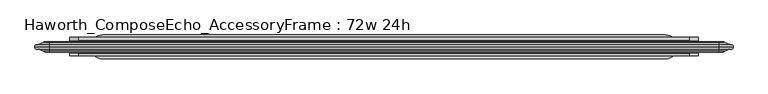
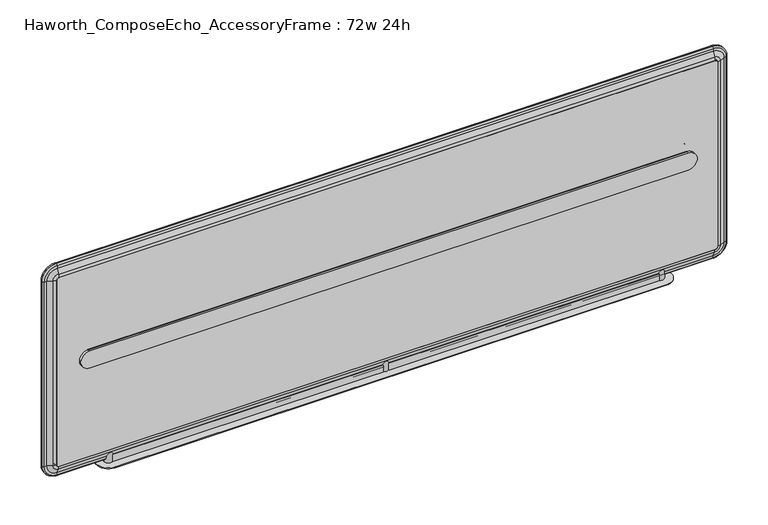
"""IFC4 building model written with IfcOpenShell, lengths in millimetres: furniture geometry, Haworth_ComposeEcho_AccessoryFrame : 72w 24h."""

from ifc_helpers import new_model, si_unit, point, frame, frame_2d, origin, place, context, project, spatial, polyline, circle_curve, ellipse_curve, trimmed, segment, composite_curve, outline, extrude, source, transform, mapped, element, save
from ifc_brep_helpers import plane_surface, cylinder_surface, revolved_surface, advanced_brep


def haworth_composeecho_accessoryframe_72w_24h_c86ca548(model_context):
    return source(origin(), model_context, "Body", "SolidModel", [
        extrude(outline(composite_curve([segment(trimmed(circle_curve(frame_2d((1636.1130983, -873.8759879)), 6.3337219), [point((1642.4468202, -873.8759879))], [point((1636.1130983, -880.2097098))], False, "CARTESIAN"), True, "CONTINUOUS"), segment(polyline([(1636.1130983, -880.2097098), (1115.0680007, -880.2097098)]), True, "CONTINUOUS"), segment(trimmed(circle_curve(frame_2d((1115.0680007, -873.8597098)), 6.35), [point((1115.0680007, -880.2097098))], [point((1108.7180007, -873.8597098))], False, "CARTESIAN"), True, "CONTINUOUS"), segment(polyline([(1108.7180007, -873.8597098), (1108.7180007, 878.7402902)]), True, "CONTINUOUS"), segment(trimmed(circle_curve(frame_2d((1115.0680007, 878.7402902)), 6.35), [point((1108.7180007, 878.7402902))], [point((1115.0680007, 885.0902902))], False, "CARTESIAN"), True, "CONTINUOUS"), segment(polyline([(1115.0680007, 885.0902902), (1636.1130983, 885.0902902)]), True, "CONTINUOUS"), segment(trimmed(circle_curve(frame_2d((1636.1130983, 878.7565682)), 6.3337219), [point((1636.1130983, 885.0902902))], [point((1642.4468202, 878.7565682))], False, "CARTESIAN"), True, "CONTINUOUS"), segment(polyline([(1642.4468202, 878.7565682), (1642.4468202, -873.8759879)]), True, "CONTINUOUS")], self_intersect=False)), frame((0.0, -14.2419601, 0.0), z_axis=(0.0, 1.0, 0.0), x_axis=(0.0, 0.0, 1.0)), (0.0, 0.0, 1.0), 28.3652874),
        advanced_brep(
        [(-909.0937217, 5.6620988, 1115.0680007), (-911.6146505, 0.0, 1115.0680007), (-911.6146505, 0.0, 1636.1130983), (-909.0937217, 5.6620988, 1636.1130983), (-880.2097098, 0.0, 1115.0680007), (-880.2097098, 14.1233272, 1115.0680007), (-880.2097098, 14.1233272, 1636.1130983), (-880.2097098, 0.0, 1636.1130983), (-888.4907567, 11.9243222, 1115.0680007), (-888.4907567, 11.9243222, 1636.1130983), (-901.6649167, 6.4813873, 1115.0680007), (-901.6649167, 6.4813873, 1636.1130983), (-873.8759879, 5.6620988, 1671.3308321), (-873.8759879, 0.0, 1673.8517609), (-873.8759879, 0.0, 1642.4468202), (-873.8759879, 14.1233272, 1642.4468202), (-873.8759879, 11.9243222, 1650.7278671), (-873.8759879, 6.4813873, 1663.9020271), (878.7563745, 0.0, 1673.8517609), (878.7563745, 5.6620988, 1671.3308321), (878.7563745, 14.1233272, 1642.4468202), (878.7563745, 0.0, 1642.4468202), (878.7563745, 11.9243222, 1650.7278671), (878.7563745, 6.4813873, 1663.9020271), (913.9741083, 5.6620988, 1636.1130983), (916.495037, 0.0, 1636.1130983), (885.0900964, 0.0, 1636.1130983), (885.0900964, 14.1233272, 1636.1130983), (893.3711433, 11.9243222, 1636.1130983), (906.5453032, 6.4813873, 1636.1130983), (916.495037, 0.0, 1115.0680007), (913.9741083, 5.6620988, 1115.0680007), (885.0900964, 14.1233272, 1115.0680007), (885.0900964, 0.0, 1115.0680007), (893.3711433, 11.9243222, 1115.0680007), (906.5453032, 6.4813873, 1115.0680007), (878.7400964, 5.6620988, 1079.8339888), (878.7400964, 0.0, 1077.31306), (878.7400964, 0.0, 1108.7180007), (878.7400964, 14.1233272, 1108.7180007), (878.7400964, 11.9243222, 1100.4369538), (878.7400964, 6.4813873, 1087.2627938), (-873.8597098, 0.0, 1077.31306), (-873.8597098, 5.6620988, 1079.8339888), (-873.8597098, 14.1233272, 1108.7180007), (-873.8597098, 0.0, 1108.7180007), (-873.8597098, 11.9243222, 1100.4369538), (-873.8597098, 6.4813873, 1087.2627938)],
        [
            (0, 1, circle_curve(frame((-907.6630478, 1.6328774, 1115.0680007), z_axis=(0.0, 0.0, 1.0), x_axis=(1.0, 0.0, 0.0)), 4.2756815)),
            (1, 2),
            (2, 3, circle_curve(frame((-907.6630478, 1.6328774, 1636.1130983), z_axis=(0.0, 0.0, -1.0), x_axis=(1.0, 0.0, 0.0)), 4.2756815)),
            (3, 0),
            (4, 5),
            (5, 6),
            (6, 7),
            (7, 4),
            (5, 8, circle_curve(frame((-877.800131, -11.6426513, 1115.0680007), z_axis=(0.0, 0.0, 1.0), x_axis=(1.0, 0.0, 0.0)), 25.8784026)),
            (8, 9),
            (9, 6, circle_curve(frame((-877.800131, -11.6426513, 1636.1130983), z_axis=(0.0, 0.0, -1.0), x_axis=(1.0, 0.0, 0.0)), 25.8784026)),
            (8, 10, circle_curve(frame((-974.9174674, 202.4478756, 1115.0680007), z_axis=(0.0, 0.0, -1.0), x_axis=(1.0, 0.0, 0.0)), 209.209944)),
            (10, 11),
            (11, 9, circle_curve(frame((-974.9174674, 202.4478756, 1636.1130983), z_axis=(0.0, 0.0, 1.0), x_axis=(1.0, 0.0, 0.0)), 209.209944)),
            (10, 0),
            (3, 11),
            (12, 3, circle_curve(frame((-873.8759879, 5.6620988, 1636.1130983), z_axis=(0.0, -1.0, 0.0), x_axis=(-1.0, 0.0, 0.0)), 35.2177338)),
            (2, 13, circle_curve(frame((-873.8759879, 0.0, 1636.1130983), z_axis=(0.0, 1.0, 0.0), x_axis=(-1.0, 0.0, 0.0)), 37.7386626)),
            (13, 12, circle_curve(frame((-873.8759879, 1.6328774, 1669.9001582), z_axis=(-1.0, 0.0, 0.0), x_axis=(0.0, 0.0, -1.0)), 4.2756815)),
            (14, 7, circle_curve(frame((-873.8759879, 0.0, 1636.1130983), z_axis=(0.0, -1.0, 0.0), x_axis=(-1.0, 0.0, 0.0)), 6.3337219)),
            (6, 15, circle_curve(frame((-873.8759879, 14.1233272, 1636.1130983), z_axis=(0.0, 1.0, 0.0), x_axis=(-1.0, 0.0, 0.0)), 6.3337219)),
            (15, 14),
            (9, 16, circle_curve(frame((-873.8759879, 11.9243222, 1636.1130983), z_axis=(0.0, 1.0, 0.0), x_axis=(-1.0, 0.0, 0.0)), 14.6147688)),
            (16, 15, circle_curve(frame((-873.8759879, -11.6426513, 1640.0372414), z_axis=(-1.0, 0.0, 0.0), x_axis=(0.0, 0.0, -1.0)), 25.8784026)),
            (11, 17, circle_curve(frame((-873.8759879, 6.4813873, 1636.1130983), z_axis=(0.0, 1.0, 0.0), x_axis=(-1.0, 0.0, 0.0)), 27.7889288)),
            (17, 16, circle_curve(frame((-873.8759879, 202.4478756, 1737.1545778), z_axis=(1.0, 0.0, 0.0), x_axis=(0.0, 0.0, -1.0)), 209.209944)),
            (12, 17),
            (13, 18),
            (18, 19, circle_curve(frame((878.7563745, 1.6328774, 1669.9001582), z_axis=(-1.0, 0.0, 0.0), x_axis=(0.0, 0.0, -1.0)), 4.2756815)),
            (19, 12),
            (15, 20),
            (20, 21),
            (21, 14),
            (16, 22),
            (22, 20, circle_curve(frame((878.7563745, -11.6426513, 1640.0372414), z_axis=(-1.0, 0.0, 0.0), x_axis=(0.0, 0.0, -1.0)), 25.8784026)),
            (17, 23),
            (23, 22, circle_curve(frame((878.7563745, 202.4478756, 1737.1545778), z_axis=(1.0, 0.0, 0.0), x_axis=(0.0, 0.0, -1.0)), 209.209944)),
            (19, 23),
            (24, 19, circle_curve(frame((878.7563745, 5.6620988, 1636.1130983), z_axis=(0.0, -1.0, 0.0), x_axis=(0.0, 0.0, 1.0)), 35.2177338)),
            (18, 25, circle_curve(frame((878.7563745, 0.0, 1636.1130983), z_axis=(0.0, 1.0, 0.0), x_axis=(0.0, 0.0, 1.0)), 37.7386626)),
            (25, 24, circle_curve(frame((912.5434343, 1.6328774, 1636.1130983), z_axis=(0.0, 0.0, 1.0), x_axis=(-1.0, 0.0, 0.0)), 4.2756815)),
            (26, 21, circle_curve(frame((878.7563745, 0.0, 1636.1130983), z_axis=(0.0, -1.0, 0.0), x_axis=(0.0, 0.0, 1.0)), 6.3337219)),
            (20, 27, circle_curve(frame((878.7563745, 14.1233272, 1636.1130983), z_axis=(0.0, 1.0, 0.0), x_axis=(0.0, 0.0, 1.0)), 6.3337219)),
            (27, 26),
            (22, 28, circle_curve(frame((878.7563745, 11.9243222, 1636.1130983), z_axis=(0.0, 1.0, 0.0), x_axis=(0.0, 0.0, 1.0)), 14.6147688)),
            (28, 27, circle_curve(frame((882.6805175, -11.6426513, 1636.1130983), z_axis=(0.0, 0.0, 1.0), x_axis=(-1.0, 0.0, 0.0)), 25.8784026)),
            (23, 29, circle_curve(frame((878.7563745, 6.4813873, 1636.1130983), z_axis=(0.0, 1.0, 0.0), x_axis=(0.0, 0.0, 1.0)), 27.7889288)),
            (29, 28, circle_curve(frame((979.7978539, 202.4478756, 1636.1130983), z_axis=(0.0, 0.0, -1.0), x_axis=(-1.0, 0.0, 0.0)), 209.209944)),
            (24, 29),
            (25, 30),
            (30, 31, circle_curve(frame((912.5434343, 1.6328774, 1115.0680007), z_axis=(0.0, 0.0, 1.0), x_axis=(-1.0, 0.0, 0.0)), 4.2756815)),
            (31, 24),
            (27, 32),
            (32, 33),
            (33, 26),
            (28, 34),
            (34, 32, circle_curve(frame((882.6805175, -11.6426513, 1115.0680007), z_axis=(0.0, 0.0, 1.0), x_axis=(-1.0, 0.0, 0.0)), 25.8784026)),
            (29, 35),
            (35, 34, circle_curve(frame((979.7978539, 202.4478756, 1115.0680007), z_axis=(0.0, 0.0, -1.0), x_axis=(-1.0, 0.0, 0.0)), 209.209944)),
            (31, 35),
            (36, 31, circle_curve(frame((878.7400964, 5.6620988, 1115.0680007), z_axis=(0.0, -1.0, 0.0), x_axis=(1.0, 0.0, 0.0)), 35.2340119)),
            (30, 37, circle_curve(frame((878.7400964, 0.0, 1115.0680007), z_axis=(0.0, 1.0, 0.0), x_axis=(1.0, 0.0, 0.0)), 37.7549407)),
            (37, 36, circle_curve(frame((878.7400964, 1.6328774, 1081.2646627), z_axis=(1.0, 0.0, 0.0), x_axis=(0.0, 0.0, 1.0)), 4.2756815)),
            (38, 33, circle_curve(frame((878.7400964, 0.0, 1115.0680007), z_axis=(0.0, -1.0, 0.0), x_axis=(1.0, 0.0, 0.0)), 6.35)),
            (32, 39, circle_curve(frame((878.7400964, 14.1233272, 1115.0680007), z_axis=(0.0, 1.0, 0.0), x_axis=(1.0, 0.0, 0.0)), 6.35)),
            (39, 38),
            (34, 40, circle_curve(frame((878.7400964, 11.9243222, 1115.0680007), z_axis=(0.0, 1.0, 0.0), x_axis=(1.0, 0.0, 0.0)), 14.6310469)),
            (40, 39, circle_curve(frame((878.7400964, -11.6426513, 1111.1275795), z_axis=(1.0, 0.0, 0.0), x_axis=(0.0, 0.0, 1.0)), 25.8784026)),
            (35, 41, circle_curve(frame((878.7400964, 6.4813873, 1115.0680007), z_axis=(0.0, 1.0, 0.0), x_axis=(1.0, 0.0, 0.0)), 27.8052069)),
            (41, 40, circle_curve(frame((878.7400964, 202.4478756, 1014.0102431), z_axis=(-1.0, 0.0, 0.0), x_axis=(0.0, 0.0, 1.0)), 209.209944)),
            (36, 41),
            (37, 42),
            (42, 43, circle_curve(frame((-873.8597098, 1.6328774, 1081.2646627), z_axis=(1.0, 0.0, 0.0), x_axis=(0.0, 0.0, 1.0)), 4.2756815)),
            (43, 36),
            (39, 44),
            (44, 45),
            (45, 38),
            (40, 46),
            (46, 44, circle_curve(frame((-873.8597098, -11.6426513, 1111.1275795), z_axis=(1.0, 0.0, 0.0), x_axis=(0.0, 0.0, 1.0)), 25.8784026)),
            (41, 47),
            (47, 46, circle_curve(frame((-873.8597098, 202.4478756, 1014.0102431), z_axis=(-1.0, 0.0, 0.0), x_axis=(0.0, 0.0, 1.0)), 209.209944)),
            (43, 47),
            (0, 43, circle_curve(frame((-873.8597098, 5.6620988, 1115.0680007), z_axis=(0.0, -1.0, 0.0), x_axis=(0.0, 0.0, -1.0)), 35.2340119)),
            (42, 1, circle_curve(frame((-873.8597098, 0.0, 1115.0680007), z_axis=(0.0, 1.0, 0.0), x_axis=(0.0, 0.0, -1.0)), 37.7549407)),
            (45, 4, circle_curve(frame((-873.8597098, 0.0, 1115.0680007), z_axis=(0.0, 1.0, 0.0), x_axis=(0.0, 0.0, -1.0)), 6.35)),
            (44, 5, circle_curve(frame((-873.8597098, 14.1233272, 1115.0680007), z_axis=(0.0, 1.0, 0.0), x_axis=(0.0, 0.0, -1.0)), 6.35)),
            (46, 8, circle_curve(frame((-873.8597098, 11.9243222, 1115.0680007), z_axis=(0.0, 1.0, 0.0), x_axis=(0.0, 0.0, -1.0)), 14.6310469)),
            (47, 10, circle_curve(frame((-873.8597098, 6.4813873, 1115.0680007), z_axis=(0.0, 1.0, 0.0), x_axis=(0.0, 0.0, -1.0)), 27.8052069)),
        ],
        [
            cylinder_surface(frame((-907.6630478, 1.6328774, 1115.0680007), z_axis=(0.0, 0.0, -1.0), x_axis=(1.0, 0.0, 0.0)), 4.2756815),
            plane_surface(frame((-880.2097098, 14.1233272, 1115.0680007), z_axis=(1.0, 0.0, 0.0), x_axis=(0.0, 0.0, 1.0))),
            cylinder_surface(frame((-877.800131, -11.6426513, 1115.0680007), z_axis=(0.0, 0.0, -1.0), x_axis=(1.0, 0.0, 0.0)), 25.8784026),
            revolved_surface(polyline([(-765.7075233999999, 202.4478756, 1636.1130983), (-765.7075233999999, 202.4478756, 1115.0680007)]), (-974.9174674, 202.4478756, 1115.0680007), (0.0, 0.0, 1.0)),
            plane_surface(frame((-909.0937217, 5.6620988, 1115.0680007), z_axis=(-0.10962074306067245, 0.9939734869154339, 0.0), x_axis=(0.0, 0.0, 1.0))),
            revolved_surface(trimmed(ellipse_curve(frame((-907.6630478, 1.6328774, 1636.1130983), z_axis=(0.0, 0.0, -1.0), x_axis=(1.0, 0.0, 0.0)), 4.2756815, 4.2756815), [point((-911.6146505, 0.0, 1636.1130983))], [point((-909.0937217, 5.6620988, 1636.1130983))], True, "CARTESIAN"), (-873.8759879, 0.0, 1636.1130983), (0.0, 1.0, 0.0)),
            revolved_surface(polyline([(-880.2097098, 14.1233272, 1636.1130983), (-880.2097098, 0.0, 1636.1130983)]), (-873.8759879, 0.0, 1636.1130983), (0.0, 1.0, 0.0)),
            revolved_surface(trimmed(ellipse_curve(frame((-877.800131, -11.6426513, 1636.1130983), z_axis=(0.0, 0.0, -1.0), x_axis=(1.0, 0.0, 0.0)), 25.8784026, 25.8784026), [point((-888.4907567, 11.9243222, 1636.1130983))], [point((-880.2097098, 14.1233272, 1636.1130983))], True, "CARTESIAN"), (-873.8759879, 0.0, 1636.1130983), (0.0, 1.0, 0.0)),
            revolved_surface(trimmed(ellipse_curve(frame((-974.9174674, 202.4478756, 1636.1130983), z_axis=(0.0, 0.0, 1.0), x_axis=(1.0, 0.0, 0.0)), 209.209944, 209.209944), [point((-901.6649167, 6.4813873, 1636.1130983))], [point((-888.4907567, 11.9243222, 1636.1130983))], True, "CARTESIAN"), (-873.8759879, 0.0, 1636.1130983), (0.0, 1.0, 0.0)),
            revolved_surface(polyline([(-909.0937217, 5.6620988, 1636.1130983), (-901.6649167, 6.4813873, 1636.1130983)]), (-873.8759879, 0.0, 1636.1130983), (0.0, 1.0, 0.0)),
            cylinder_surface(frame((-873.8759879, 1.6328774, 1669.9001582), z_axis=(-1.0, 0.0, 0.0), x_axis=(0.0, 0.0, -1.0)), 4.2756815),
            plane_surface(frame((-873.8759879, 14.1233272, 1642.4468202), z_axis=(0.0, 0.0, -1.0), x_axis=(1.0, 0.0, 0.0))),
            cylinder_surface(frame((-873.8759879, -11.6426513, 1640.0372414), z_axis=(-1.0, 0.0, 0.0), x_axis=(0.0, 0.0, -1.0)), 25.8784026),
            revolved_surface(polyline([(878.7563745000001, 202.4478756, 1527.9446338), (-873.8759879, 202.4478756, 1527.9446338)]), (-873.8759879, 202.4478756, 1737.1545778), (1.0, 0.0, 0.0)),
            plane_surface(frame((-873.8759879, 5.6620988, 1671.3308321), z_axis=(0.0, 0.9939734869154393, 0.10962074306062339), x_axis=(1.0, 0.0, 0.0))),
            revolved_surface(trimmed(ellipse_curve(frame((878.7563745, 1.6328774, 1669.9001582), z_axis=(-1.0, 0.0, 0.0), x_axis=(0.0, 0.0, -1.0)), 4.2756815, 4.2756815), [point((878.7563745, 0.0, 1673.8517609))], [point((878.7563745, 5.6620988, 1671.3308321))], True, "CARTESIAN"), (878.7563745, 0.0, 1636.1130983), (0.0, 1.0, 0.0)),
            revolved_surface(polyline([(878.7563745, 14.1233272, 1642.4468202), (878.7563745, 0.0, 1642.4468202)]), (878.7563745, 0.0, 1636.1130983), (0.0, 1.0, 0.0)),
            revolved_surface(trimmed(ellipse_curve(frame((878.7563745, -11.6426513, 1640.0372414), z_axis=(-1.0, 0.0, 0.0), x_axis=(0.0, 0.0, -1.0)), 25.8784026, 25.8784026), [point((878.7563745, 11.9243222, 1650.7278671))], [point((878.7563745, 14.1233272, 1642.4468202))], True, "CARTESIAN"), (878.7563745, 0.0, 1636.1130983), (0.0, 1.0, 0.0)),
            revolved_surface(trimmed(ellipse_curve(frame((878.7563745, 202.4478756, 1737.1545778), z_axis=(1.0, 0.0, 0.0), x_axis=(0.0, 0.0, -1.0)), 209.209944, 209.209944), [point((878.7563745, 6.4813873, 1663.9020271))], [point((878.7563745, 11.9243222, 1650.7278671))], True, "CARTESIAN"), (878.7563745, 0.0, 1636.1130983), (0.0, 1.0, 0.0)),
            revolved_surface(polyline([(878.7563745, 5.6620988, 1671.3308321), (878.7563745, 6.4813873, 1663.9020271)]), (878.7563745, 0.0, 1636.1130983), (0.0, 1.0, 0.0)),
            cylinder_surface(frame((912.5434343, 1.6328774, 1636.1130983), z_axis=(0.0, 0.0, 1.0), x_axis=(-1.0, 0.0, 0.0)), 4.2756815),
            plane_surface(frame((885.0900964, 14.1233272, 1636.1130983), z_axis=(-1.0, 0.0, 0.0), x_axis=(0.0, 0.0, -1.0))),
            cylinder_surface(frame((882.6805175, -11.6426513, 1636.1130983), z_axis=(0.0, 0.0, 1.0), x_axis=(-1.0, 0.0, 0.0)), 25.8784026),
            revolved_surface(polyline([(770.5879098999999, 202.4478756, 1115.0680007), (770.5879098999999, 202.4478756, 1636.1130983)]), (979.7978539, 202.4478756, 1636.1130983), (0.0, 0.0, -1.0)),
            plane_surface(frame((913.9741083, 5.6620988, 1636.1130983), z_axis=(0.10962074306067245, 0.9939734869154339, 0.0), x_axis=(0.0, 0.0, -1.0))),
            revolved_surface(trimmed(ellipse_curve(frame((912.5434343, 1.6328774, 1115.0680007), z_axis=(0.0, 0.0, 1.0), x_axis=(-1.0, 0.0, 0.0)), 4.2756815, 4.2756815), [point((916.495037, 0.0, 1115.0680007))], [point((913.9741083, 5.6620988, 1115.0680007))], True, "CARTESIAN"), (878.7400964, 0.0, 1115.0680007), (0.0, 1.0, 0.0)),
            revolved_surface(polyline([(885.0900964, 14.1233272, 1115.0680007), (885.0900964, 0.0, 1115.0680007)]), (878.7400964, 0.0, 1115.0680007), (0.0, 1.0, 0.0)),
            revolved_surface(trimmed(ellipse_curve(frame((882.6805175, -11.6426513, 1115.0680007), z_axis=(0.0, 0.0, 1.0), x_axis=(-1.0, 0.0, 0.0)), 25.8784026, 25.8784026), [point((893.3711433, 11.9243222, 1115.0680007))], [point((885.0900964, 14.1233272, 1115.0680007))], True, "CARTESIAN"), (878.7400964, 0.0, 1115.0680007), (0.0, 1.0, 0.0)),
            revolved_surface(trimmed(ellipse_curve(frame((979.7978539, 202.4478756, 1115.0680007), z_axis=(0.0, 0.0, -1.0), x_axis=(-1.0, 0.0, 0.0)), 209.209944, 209.209944), [point((906.5453032, 6.4813873, 1115.0680007))], [point((893.3711433, 11.9243222, 1115.0680007))], True, "CARTESIAN"), (878.7400964, 0.0, 1115.0680007), (0.0, 1.0, 0.0)),
            revolved_surface(polyline([(913.9741083, 5.6620988, 1115.0680007), (906.5453032, 6.4813873, 1115.0680007)]), (878.7400964, 0.0, 1115.0680007), (0.0, 1.0, 0.0)),
            cylinder_surface(frame((878.7400964, 1.6328774, 1081.2646627), z_axis=(1.0, 0.0, 0.0), x_axis=(0.0, 0.0, 1.0)), 4.2756815),
            plane_surface(frame((878.7400964, 14.1233272, 1108.7180007), z_axis=(0.0, 0.0, 1.0), x_axis=(-1.0, 0.0, 0.0))),
            cylinder_surface(frame((878.7400964, -11.6426513, 1111.1275795), z_axis=(1.0, 0.0, 0.0), x_axis=(0.0, 0.0, 1.0)), 25.8784026),
            revolved_surface(polyline([(-873.8597097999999, 202.4478756, 1223.2201871), (878.7400964, 202.4478756, 1223.2201871)]), (878.7400964, 202.4478756, 1014.0102431), (-1.0, 0.0, 0.0)),
            plane_surface(frame((878.7400964, 5.6620988, 1079.8339888), z_axis=(0.0, 0.9939734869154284, -0.1096207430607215), x_axis=(-1.0, 0.0, 0.0))),
            revolved_surface(trimmed(ellipse_curve(frame((-873.8597098, 1.6328774, 1081.2646627), z_axis=(1.0, 0.0, 0.0), x_axis=(0.0, 0.0, 1.0)), 4.2756815, 4.2756815), [point((-873.8597098, 0.0, 1077.31306))], [point((-873.8597098, 5.6620988, 1079.8339888))], True, "CARTESIAN"), (-873.8597098, 0.0, 1115.0680007), (0.0, 1.0, 0.0)),
            plane_surface(frame((-873.8597098, 0.0, 1115.0680007), z_axis=(0.0, -1.0, 0.0), x_axis=(0.0, 0.0, -1.0))),
            revolved_surface(polyline([(-873.8597098, 14.1233272, 1108.7180007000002), (-873.8597098, 0.0, 1108.7180007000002)]), (-873.8597098, 0.0, 1115.0680007), (0.0, 1.0, 0.0)),
            revolved_surface(trimmed(ellipse_curve(frame((-873.8597098, -11.6426513, 1111.1275795), z_axis=(1.0, 0.0, 0.0), x_axis=(0.0, 0.0, 1.0)), 25.8784026, 25.8784026), [point((-873.8597098, 11.9243222, 1100.4369538))], [point((-873.8597098, 14.1233272, 1108.7180007))], True, "CARTESIAN"), (-873.8597098, 0.0, 1115.0680007), (0.0, 1.0, 0.0)),
            revolved_surface(trimmed(ellipse_curve(frame((-873.8597098, 202.4478756, 1014.0102431), z_axis=(-1.0, 0.0, 0.0), x_axis=(0.0, 0.0, 1.0)), 209.209944, 209.209944), [point((-873.8597098, 6.4813873, 1087.2627938))], [point((-873.8597098, 11.9243222, 1100.4369538))], True, "CARTESIAN"), (-873.8597098, 0.0, 1115.0680007), (0.0, 1.0, 0.0)),
            revolved_surface(polyline([(-873.8597098, 5.6620988, 1079.8339888), (-873.8597098, 6.4813873, 1087.2627938)]), (-873.8597098, 0.0, 1115.0680007), (0.0, 1.0, 0.0)),
        ],
        [
            (0, [[1, 2, 3, 4]]),
            (1, [[5, 6, 7, 8]]),
            (2, [[9, 10, 11, -6]]),
            (3, [[12, 13, 14, -10]]),
            (4, [[15, -4, 16, -13]]),
            (5, [[17, -3, 18, 19]]),
            (6, [[20, -7, 21, 22]]),
            (7, [[-21, -11, 23, 24]]),
            (8, [[-23, -14, 25, 26]]),
            (9, [[-25, -16, -17, 27]]),
            (10, [[-19, 28, 29, 30]]),
            (11, [[-22, 31, 32, 33]]),
            (12, [[-24, 34, 35, -31]]),
            (13, [[-26, 36, 37, -34]]),
            (14, [[-27, -30, 38, -36]]),
            (15, [[39, -29, 40, 41]]),
            (16, [[42, -32, 43, 44]]),
            (17, [[-43, -35, 45, 46]]),
            (18, [[-45, -37, 47, 48]]),
            (19, [[-47, -38, -39, 49]]),
            (20, [[-41, 50, 51, 52]]),
            (21, [[-44, 53, 54, 55]]),
            (22, [[-46, 56, 57, -53]]),
            (23, [[-48, 58, 59, -56]]),
            (24, [[-49, -52, 60, -58]]),
            (25, [[61, -51, 62, 63]]),
            (26, [[64, -54, 65, 66]]),
            (27, [[-65, -57, 67, 68]]),
            (28, [[-67, -59, 69, 70]]),
            (29, [[-69, -60, -61, 71]]),
            (30, [[-63, 72, 73, 74]]),
            (31, [[-66, 75, 76, 77]]),
            (32, [[-68, 78, 79, -75]]),
            (33, [[-70, 80, 81, -78]]),
            (34, [[-71, -74, 82, -80]]),
            (35, [[83, -73, 84, -1]]),
            (36, [[-84, -72, -62, -50, -40, -28, -18, -2], [-64, -77, 85, -8, -20, -33, -42, -55]]),
            (37, [[-85, -76, 86, -5]]),
            (38, [[-86, -79, 87, -9]]),
            (39, [[-87, -81, 88, -12]]),
            (40, [[-88, -82, -83, -15]]),
        ],
    ),
        advanced_brep(
        [(-911.6146505, 0.0, 1115.0680007), (-909.0937217, -5.6620988, 1115.0680007), (-909.0937217, -5.6620988, 1636.1130983), (-911.6146505, 0.0, 1636.1130983), (-880.2097098, -14.1233272, 1115.0680007), (-880.2097098, 0.0, 1115.0680007), (-880.2097098, 0.0, 1636.1130983), (-880.2097098, -14.1233272, 1636.1130983), (-888.4907567, -11.9243222, 1115.0680007), (-888.4907567, -11.9243222, 1636.1130983), (-901.6649167, -6.4813873, 1115.0680007), (-901.6649167, -6.4813873, 1636.1130983), (-873.8759879, 0.0, 1673.8517609), (-873.8759879, -5.6620988, 1671.3308321), (-873.8759879, -14.1233272, 1642.4468202), (-873.8759879, 0.0, 1642.4468202), (-873.8759879, -11.9243222, 1650.7278671), (-873.8759879, -6.4813873, 1663.9020271), (878.7563745, -5.6620988, 1671.3308321), (878.7563745, 0.0, 1673.8517609), (878.7563745, 0.0, 1642.4468202), (878.7563745, -14.1233272, 1642.4468202), (878.7563745, -11.9243222, 1650.7278671), (878.7563745, -6.4813873, 1663.9020271), (916.495037, 0.0, 1636.1130983), (913.9741083, -5.6620988, 1636.1130983), (885.0900964, -14.1233272, 1636.1130983), (885.0900964, 0.0, 1636.1130983), (893.3711433, -11.9243222, 1636.1130983), (906.5453032, -6.4813873, 1636.1130983), (913.9741083, -5.6620988, 1115.0680007), (916.495037, 0.0, 1115.0680007), (885.0900964, 0.0, 1115.0680007), (885.0900964, -14.1233272, 1115.0680007), (893.3711433, -11.9243222, 1115.0680007), (906.5453032, -6.4813873, 1115.0680007), (878.7400964, 0.0, 1077.31306), (878.7400964, -5.6620988, 1079.8339888), (878.7400964, -14.1233272, 1108.7180007), (878.7400964, 0.0, 1108.7180007), (878.7400964, -11.9243222, 1100.4369538), (878.7400964, -6.4813873, 1087.2627938), (-873.8597098, -5.6620988, 1079.8339888), (-873.8597098, 0.0, 1077.31306), (-873.8597098, 0.0, 1108.7180007), (-873.8597098, -14.1233272, 1108.7180007), (-873.8597098, -11.9243222, 1100.4369538), (-873.8597098, -6.4813873, 1087.2627938)],
        [
            (0, 1, circle_curve(frame((-907.6630478, -1.6328774, 1115.0680007), z_axis=(0.0, 0.0, 1.0), x_axis=(-1.0, 0.0, 0.0)), 4.2756815)),
            (1, 2),
            (2, 3, circle_curve(frame((-907.6630478, -1.6328774, 1636.1130983), z_axis=(0.0, 0.0, -1.0), x_axis=(-1.0, 0.0, 0.0)), 4.2756815)),
            (3, 0),
            (4, 5),
            (5, 6),
            (6, 7),
            (7, 4),
            (8, 4, circle_curve(frame((-877.800131, 11.6426513, 1115.0680007), z_axis=(0.0, 0.0, 1.0), x_axis=(-1.0, 0.0, 0.0)), 25.8784026)),
            (7, 9, circle_curve(frame((-877.800131, 11.6426513, 1636.1130983), z_axis=(0.0, 0.0, -1.0), x_axis=(-1.0, 0.0, 0.0)), 25.8784026)),
            (9, 8),
            (10, 8, circle_curve(frame((-974.9174674, -202.4478756, 1115.0680007), z_axis=(0.0, 0.0, -1.0), x_axis=(-1.0, 0.0, 0.0)), 209.209944)),
            (9, 11, circle_curve(frame((-974.9174674, -202.4478756, 1636.1130983), z_axis=(0.0, 0.0, 1.0), x_axis=(-1.0, 0.0, 0.0)), 209.209944)),
            (11, 10),
            (1, 10),
            (11, 2),
            (12, 3, circle_curve(frame((-873.8759879, 0.0, 1636.1130983), z_axis=(0.0, -1.0, 0.0), x_axis=(-1.0, 0.0, 0.0)), 37.7386626)),
            (2, 13, circle_curve(frame((-873.8759879, -5.6620988, 1636.1130983), z_axis=(0.0, 1.0, 0.0), x_axis=(-1.0, 0.0, 0.0)), 35.2177338)),
            (13, 12, circle_curve(frame((-873.8759879, -1.6328774, 1669.9001582), z_axis=(-1.0, 0.0, 0.0), x_axis=(0.0, 0.0, 1.0)), 4.2756815)),
            (14, 7, circle_curve(frame((-873.8759879, -14.1233272, 1636.1130983), z_axis=(0.0, -1.0, 0.0), x_axis=(-1.0, 0.0, 0.0)), 6.3337219)),
            (6, 15, circle_curve(frame((-873.8759879, 0.0, 1636.1130983), z_axis=(0.0, 1.0, 0.0), x_axis=(-1.0, 0.0, 0.0)), 6.3337219)),
            (15, 14),
            (16, 9, circle_curve(frame((-873.8759879, -11.9243222, 1636.1130983), z_axis=(0.0, -1.0, 0.0), x_axis=(-1.0, 0.0, 0.0)), 14.6147688)),
            (14, 16, circle_curve(frame((-873.8759879, 11.6426513, 1640.0372414), z_axis=(-1.0, 0.0, 0.0), x_axis=(0.0, 0.0, 1.0)), 25.8784026)),
            (17, 11, circle_curve(frame((-873.8759879, -6.4813873, 1636.1130983), z_axis=(0.0, -1.0, 0.0), x_axis=(-1.0, 0.0, 0.0)), 27.7889288)),
            (16, 17, circle_curve(frame((-873.8759879, -202.4478756, 1737.1545778), z_axis=(1.0, 0.0, 0.0), x_axis=(0.0, 0.0, 1.0)), 209.209944)),
            (17, 13),
            (13, 18),
            (18, 19, circle_curve(frame((878.7563745, -1.6328774, 1669.9001582), z_axis=(-1.0, 0.0, 0.0), x_axis=(0.0, 0.0, 1.0)), 4.2756815)),
            (19, 12),
            (15, 20),
            (20, 21),
            (21, 14),
            (21, 22, circle_curve(frame((878.7563745, 11.6426513, 1640.0372414), z_axis=(-1.0, 0.0, 0.0), x_axis=(0.0, 0.0, 1.0)), 25.8784026)),
            (22, 16),
            (22, 23, circle_curve(frame((878.7563745, -202.4478756, 1737.1545778), z_axis=(1.0, 0.0, 0.0), x_axis=(0.0, 0.0, 1.0)), 209.209944)),
            (23, 17),
            (23, 18),
            (24, 19, circle_curve(frame((878.7563745, 0.0, 1636.1130983), z_axis=(0.0, -1.0, 0.0), x_axis=(0.0, 0.0, 1.0)), 37.7386626)),
            (18, 25, circle_curve(frame((878.7563745, -5.6620988, 1636.1130983), z_axis=(0.0, 1.0, 0.0), x_axis=(0.0, 0.0, 1.0)), 35.2177338)),
            (25, 24, circle_curve(frame((912.5434343, -1.6328774, 1636.1130983), z_axis=(0.0, 0.0, 1.0), x_axis=(1.0, 0.0, 0.0)), 4.2756815)),
            (26, 21, circle_curve(frame((878.7563745, -14.1233272, 1636.1130983), z_axis=(0.0, -1.0, 0.0), x_axis=(0.0, 0.0, 1.0)), 6.3337219)),
            (20, 27, circle_curve(frame((878.7563745, 0.0, 1636.1130983), z_axis=(0.0, 1.0, 0.0), x_axis=(0.0, 0.0, 1.0)), 6.3337219)),
            (27, 26),
            (28, 22, circle_curve(frame((878.7563745, -11.9243222, 1636.1130983), z_axis=(0.0, -1.0, 0.0), x_axis=(0.0, 0.0, 1.0)), 14.6147688)),
            (26, 28, circle_curve(frame((882.6805175, 11.6426513, 1636.1130983), z_axis=(0.0, 0.0, 1.0), x_axis=(1.0, 0.0, 0.0)), 25.8784026)),
            (29, 23, circle_curve(frame((878.7563745, -6.4813873, 1636.1130983), z_axis=(0.0, -1.0, 0.0), x_axis=(0.0, 0.0, 1.0)), 27.7889288)),
            (28, 29, circle_curve(frame((979.7978539, -202.4478756, 1636.1130983), z_axis=(0.0, 0.0, -1.0), x_axis=(1.0, 0.0, 0.0)), 209.209944)),
            (29, 25),
            (25, 30),
            (30, 31, circle_curve(frame((912.5434343, -1.6328774, 1115.0680007), z_axis=(0.0, 0.0, 1.0), x_axis=(1.0, 0.0, 0.0)), 4.2756815)),
            (31, 24),
            (27, 32),
            (32, 33),
            (33, 26),
            (33, 34, circle_curve(frame((882.6805175, 11.6426513, 1115.0680007), z_axis=(0.0, 0.0, 1.0), x_axis=(1.0, 0.0, 0.0)), 25.8784026)),
            (34, 28),
            (34, 35, circle_curve(frame((979.7978539, -202.4478756, 1115.0680007), z_axis=(0.0, 0.0, -1.0), x_axis=(1.0, 0.0, 0.0)), 209.209944)),
            (35, 29),
            (35, 30),
            (36, 31, circle_curve(frame((878.7400964, 0.0, 1115.0680007), z_axis=(0.0, -1.0, 0.0), x_axis=(1.0, 0.0, 0.0)), 37.7549407)),
            (30, 37, circle_curve(frame((878.7400964, -5.6620988, 1115.0680007), z_axis=(0.0, 1.0, 0.0), x_axis=(1.0, 0.0, 0.0)), 35.2340119)),
            (37, 36, circle_curve(frame((878.7400964, -1.6328774, 1081.2646627), z_axis=(1.0, 0.0, 0.0), x_axis=(0.0, 0.0, -1.0)), 4.2756815)),
            (38, 33, circle_curve(frame((878.7400964, -14.1233272, 1115.0680007), z_axis=(0.0, -1.0, 0.0), x_axis=(1.0, 0.0, 0.0)), 6.35)),
            (32, 39, circle_curve(frame((878.7400964, 0.0, 1115.0680007), z_axis=(0.0, 1.0, 0.0), x_axis=(1.0, 0.0, 0.0)), 6.35)),
            (39, 38),
            (40, 34, circle_curve(frame((878.7400964, -11.9243222, 1115.0680007), z_axis=(0.0, -1.0, 0.0), x_axis=(1.0, 0.0, 0.0)), 14.6310469)),
            (38, 40, circle_curve(frame((878.7400964, 11.6426513, 1111.1275795), z_axis=(1.0, 0.0, 0.0), x_axis=(0.0, 0.0, -1.0)), 25.8784026)),
            (41, 35, circle_curve(frame((878.7400964, -6.4813873, 1115.0680007), z_axis=(0.0, -1.0, 0.0), x_axis=(1.0, 0.0, 0.0)), 27.8052069)),
            (40, 41, circle_curve(frame((878.7400964, -202.4478756, 1014.0102431), z_axis=(-1.0, 0.0, 0.0), x_axis=(0.0, 0.0, -1.0)), 209.209944)),
            (41, 37),
            (37, 42),
            (42, 43, circle_curve(frame((-873.8597098, -1.6328774, 1081.2646627), z_axis=(1.0, 0.0, 0.0), x_axis=(0.0, 0.0, -1.0)), 4.2756815)),
            (43, 36),
            (39, 44),
            (44, 45),
            (45, 38),
            (45, 46, circle_curve(frame((-873.8597098, 11.6426513, 1111.1275795), z_axis=(1.0, 0.0, 0.0), x_axis=(0.0, 0.0, -1.0)), 25.8784026)),
            (46, 40),
            (46, 47, circle_curve(frame((-873.8597098, -202.4478756, 1014.0102431), z_axis=(-1.0, 0.0, 0.0), x_axis=(0.0, 0.0, -1.0)), 209.209944)),
            (47, 41),
            (47, 42),
            (0, 43, circle_curve(frame((-873.8597098, 0.0, 1115.0680007), z_axis=(0.0, -1.0, 0.0), x_axis=(0.0, 0.0, -1.0)), 37.7549407)),
            (42, 1, circle_curve(frame((-873.8597098, -5.6620988, 1115.0680007), z_axis=(0.0, 1.0, 0.0), x_axis=(0.0, 0.0, -1.0)), 35.2340119)),
            (5, 44, circle_curve(frame((-873.8597098, 0.0, 1115.0680007), z_axis=(0.0, -1.0, 0.0), x_axis=(0.0, 0.0, -1.0)), 6.35)),
            (4, 45, circle_curve(frame((-873.8597098, -14.1233272, 1115.0680007), z_axis=(0.0, -1.0, 0.0), x_axis=(0.0, 0.0, -1.0)), 6.35)),
            (8, 46, circle_curve(frame((-873.8597098, -11.9243222, 1115.0680007), z_axis=(0.0, -1.0, 0.0), x_axis=(0.0, 0.0, -1.0)), 14.6310469)),
            (10, 47, circle_curve(frame((-873.8597098, -6.4813873, 1115.0680007), z_axis=(0.0, -1.0, 0.0), x_axis=(0.0, 0.0, -1.0)), 27.8052069)),
        ],
        [
            cylinder_surface(frame((-907.6630478, -1.6328774, 1115.0680007), z_axis=(0.0, 0.0, -1.0), x_axis=(-1.0, 0.0, 0.0)), 4.2756815),
            plane_surface(frame((-880.2097098, 0.0, 1115.0680007), z_axis=(1.0, 0.0, 0.0), x_axis=(0.0, 0.0, 1.0))),
            cylinder_surface(frame((-877.800131, 11.6426513, 1115.0680007), z_axis=(0.0, 0.0, -1.0), x_axis=(-1.0, 0.0, 0.0)), 25.8784026),
            revolved_surface(polyline([(-1184.1274114, -202.4478756, 1636.1130983), (-1184.1274114, -202.4478756, 1115.0680007)]), (-974.9174674, -202.4478756, 1115.0680007), (0.0, 0.0, 1.0)),
            plane_surface(frame((-901.6649167, -6.4813873, 1115.0680007), z_axis=(-0.10962074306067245, -0.9939734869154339, 0.0), x_axis=(0.0, 0.0, 1.0))),
            revolved_surface(trimmed(ellipse_curve(frame((-907.6630478, -1.6328774, 1636.1130983), z_axis=(0.0, 0.0, -1.0), x_axis=(-1.0, 0.0, 0.0)), 4.2756815, 4.2756815), [point((-909.0937217, -5.6620988, 1636.1130983))], [point((-911.6146505, 0.0, 1636.1130983))], True, "CARTESIAN"), (-873.8759879, 0.0, 1636.1130983), (0.0, 1.0, 0.0)),
            revolved_surface(polyline([(-880.2097098, 0.0, 1636.1130983), (-880.2097098, -14.1233272, 1636.1130983)]), (-873.8759879, 0.0, 1636.1130983), (0.0, 1.0, 0.0)),
            revolved_surface(trimmed(ellipse_curve(frame((-877.800131, 11.6426513, 1636.1130983), z_axis=(0.0, 0.0, -1.0), x_axis=(-1.0, 0.0, 0.0)), 25.8784026, 25.8784026), [point((-880.2097098, -14.1233272, 1636.1130983))], [point((-888.4907567, -11.9243222, 1636.1130983))], True, "CARTESIAN"), (-873.8759879, 0.0, 1636.1130983), (0.0, 1.0, 0.0)),
            revolved_surface(trimmed(ellipse_curve(frame((-974.9174674, -202.4478756, 1636.1130983), z_axis=(0.0, 0.0, 1.0), x_axis=(-1.0, 0.0, 0.0)), 209.209944, 209.209944), [point((-888.4907567, -11.9243222, 1636.1130983))], [point((-901.6649167, -6.4813873, 1636.1130983))], True, "CARTESIAN"), (-873.8759879, 0.0, 1636.1130983), (0.0, 1.0, 0.0)),
            revolved_surface(polyline([(-901.6649167, -6.4813873, 1636.1130983), (-909.0937217, -5.6620988, 1636.1130983)]), (-873.8759879, 0.0, 1636.1130983), (0.0, 1.0, 0.0)),
            cylinder_surface(frame((-873.8759879, -1.6328774, 1669.9001582), z_axis=(-1.0, 0.0, 0.0), x_axis=(0.0, 0.0, 1.0)), 4.2756815),
            plane_surface(frame((-873.8759879, 0.0, 1642.4468202), z_axis=(0.0, 0.0, -1.0), x_axis=(1.0, 0.0, 0.0))),
            cylinder_surface(frame((-873.8759879, 11.6426513, 1640.0372414), z_axis=(-1.0, 0.0, 0.0), x_axis=(0.0, 0.0, 1.0)), 25.8784026),
            revolved_surface(polyline([(878.7563745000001, -202.4478756, 1946.3645218), (-873.8759879, -202.4478756, 1946.3645218)]), (-873.8759879, -202.4478756, 1737.1545778), (1.0, 0.0, 0.0)),
            plane_surface(frame((-873.8759879, -6.4813873, 1663.9020271), z_axis=(0.0, -0.9939734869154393, 0.10962074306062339), x_axis=(1.0, 0.0, 0.0))),
            revolved_surface(trimmed(ellipse_curve(frame((878.7563745, -1.6328774, 1669.9001582), z_axis=(-1.0, 0.0, 0.0), x_axis=(0.0, 0.0, 1.0)), 4.2756815, 4.2756815), [point((878.7563745, -5.6620988, 1671.3308321))], [point((878.7563745, 0.0, 1673.8517609))], True, "CARTESIAN"), (878.7563745, 0.0, 1636.1130983), (0.0, 1.0, 0.0)),
            revolved_surface(polyline([(878.7563745, 0.0, 1642.4468202), (878.7563745, -14.1233272, 1642.4468202)]), (878.7563745, 0.0, 1636.1130983), (0.0, 1.0, 0.0)),
            revolved_surface(trimmed(ellipse_curve(frame((878.7563745, 11.6426513, 1640.0372414), z_axis=(-1.0, 0.0, 0.0), x_axis=(0.0, 0.0, 1.0)), 25.8784026, 25.8784026), [point((878.7563745, -14.1233272, 1642.4468202))], [point((878.7563745, -11.9243222, 1650.7278671))], True, "CARTESIAN"), (878.7563745, 0.0, 1636.1130983), (0.0, 1.0, 0.0)),
            revolved_surface(trimmed(ellipse_curve(frame((878.7563745, -202.4478756, 1737.1545778), z_axis=(1.0, 0.0, 0.0), x_axis=(0.0, 0.0, 1.0)), 209.209944, 209.209944), [point((878.7563745, -11.9243222, 1650.7278671))], [point((878.7563745, -6.4813873, 1663.9020271))], True, "CARTESIAN"), (878.7563745, 0.0, 1636.1130983), (0.0, 1.0, 0.0)),
            revolved_surface(polyline([(878.7563745, -6.4813873, 1663.9020271), (878.7563745, -5.6620988, 1671.3308321)]), (878.7563745, 0.0, 1636.1130983), (0.0, 1.0, 0.0)),
            cylinder_surface(frame((912.5434343, -1.6328774, 1636.1130983), z_axis=(0.0, 0.0, 1.0), x_axis=(1.0, 0.0, 0.0)), 4.2756815),
            plane_surface(frame((885.0900964, 0.0, 1636.1130983), z_axis=(-1.0, 0.0, 0.0), x_axis=(0.0, 0.0, -1.0))),
            cylinder_surface(frame((882.6805175, 11.6426513, 1636.1130983), z_axis=(0.0, 0.0, 1.0), x_axis=(1.0, 0.0, 0.0)), 25.8784026),
            revolved_surface(polyline([(1189.0077979, -202.4478756, 1115.0680007), (1189.0077979, -202.4478756, 1636.1130983)]), (979.7978539, -202.4478756, 1636.1130983), (0.0, 0.0, -1.0)),
            plane_surface(frame((906.5453032, -6.4813873, 1636.1130983), z_axis=(0.10962074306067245, -0.9939734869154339, 0.0), x_axis=(0.0, 0.0, -1.0))),
            revolved_surface(trimmed(ellipse_curve(frame((912.5434343, -1.6328774, 1115.0680007), z_axis=(0.0, 0.0, 1.0), x_axis=(1.0, 0.0, 0.0)), 4.2756815, 4.2756815), [point((913.9741083, -5.6620988, 1115.0680007))], [point((916.495037, 0.0, 1115.0680007))], True, "CARTESIAN"), (878.7400964, 0.0, 1115.0680007), (0.0, 1.0, 0.0)),
            revolved_surface(polyline([(885.0900964, 0.0, 1115.0680007), (885.0900964, -14.1233272, 1115.0680007)]), (878.7400964, 0.0, 1115.0680007), (0.0, 1.0, 0.0)),
            revolved_surface(trimmed(ellipse_curve(frame((882.6805175, 11.6426513, 1115.0680007), z_axis=(0.0, 0.0, 1.0), x_axis=(1.0, 0.0, 0.0)), 25.8784026, 25.8784026), [point((885.0900964, -14.1233272, 1115.0680007))], [point((893.3711433, -11.9243222, 1115.0680007))], True, "CARTESIAN"), (878.7400964, 0.0, 1115.0680007), (0.0, 1.0, 0.0)),
            revolved_surface(trimmed(ellipse_curve(frame((979.7978539, -202.4478756, 1115.0680007), z_axis=(0.0, 0.0, -1.0), x_axis=(1.0, 0.0, 0.0)), 209.209944, 209.209944), [point((893.3711433, -11.9243222, 1115.0680007))], [point((906.5453032, -6.4813873, 1115.0680007))], True, "CARTESIAN"), (878.7400964, 0.0, 1115.0680007), (0.0, 1.0, 0.0)),
            revolved_surface(polyline([(906.5453032, -6.4813873, 1115.0680007), (913.9741083, -5.6620988, 1115.0680007)]), (878.7400964, 0.0, 1115.0680007), (0.0, 1.0, 0.0)),
            cylinder_surface(frame((878.7400964, -1.6328774, 1081.2646627), z_axis=(1.0, 0.0, 0.0), x_axis=(0.0, 0.0, -1.0)), 4.2756815),
            plane_surface(frame((878.7400964, 0.0, 1108.7180007), z_axis=(0.0, 0.0, 1.0), x_axis=(-1.0, 0.0, 0.0))),
            cylinder_surface(frame((878.7400964, 11.6426513, 1111.1275795), z_axis=(1.0, 0.0, 0.0), x_axis=(0.0, 0.0, -1.0)), 25.8784026),
            revolved_surface(polyline([(-873.8597097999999, -202.4478756, 804.8002991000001), (878.7400964, -202.4478756, 804.8002991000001)]), (878.7400964, -202.4478756, 1014.0102431), (-1.0, 0.0, 0.0)),
            plane_surface(frame((878.7400964, -6.4813873, 1087.2627938), z_axis=(0.0, -0.9939734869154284, -0.1096207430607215), x_axis=(-1.0, 0.0, 0.0))),
            revolved_surface(trimmed(ellipse_curve(frame((-873.8597098, -1.6328774, 1081.2646627), z_axis=(1.0, 0.0, 0.0), x_axis=(0.0, 0.0, -1.0)), 4.2756815, 4.2756815), [point((-873.8597098, -5.6620988, 1079.8339888))], [point((-873.8597098, 0.0, 1077.31306))], True, "CARTESIAN"), (-873.8597098, 0.0, 1115.0680007), (0.0, 1.0, 0.0)),
            plane_surface(frame((-873.8597098, 0.0, 1115.0680007), z_axis=(0.0, 1.0, 0.0), x_axis=(0.0, 0.0, -1.0))),
            revolved_surface(polyline([(-873.8597098, 0.0, 1108.7180007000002), (-873.8597098, -14.1233272, 1108.7180007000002)]), (-873.8597098, 0.0, 1115.0680007), (0.0, 1.0, 0.0)),
            revolved_surface(trimmed(ellipse_curve(frame((-873.8597098, 11.6426513, 1111.1275795), z_axis=(1.0, 0.0, 0.0), x_axis=(0.0, 0.0, -1.0)), 25.8784026, 25.8784026), [point((-873.8597098, -14.1233272, 1108.7180007))], [point((-873.8597098, -11.9243222, 1100.4369538))], True, "CARTESIAN"), (-873.8597098, 0.0, 1115.0680007), (0.0, 1.0, 0.0)),
            revolved_surface(trimmed(ellipse_curve(frame((-873.8597098, -202.4478756, 1014.0102431), z_axis=(-1.0, 0.0, 0.0), x_axis=(0.0, 0.0, -1.0)), 209.209944, 209.209944), [point((-873.8597098, -11.9243222, 1100.4369538))], [point((-873.8597098, -6.4813873, 1087.2627938))], True, "CARTESIAN"), (-873.8597098, 0.0, 1115.0680007), (0.0, 1.0, 0.0)),
            revolved_surface(polyline([(-873.8597098, -6.4813873, 1087.2627938), (-873.8597098, -5.6620988, 1079.8339888)]), (-873.8597098, 0.0, 1115.0680007), (0.0, 1.0, 0.0)),
        ],
        [
            (0, [[1, 2, 3, 4]]),
            (1, [[5, 6, 7, 8]]),
            (2, [[9, -8, 10, 11]]),
            (3, [[12, -11, 13, 14]]),
            (4, [[15, -14, 16, -2]]),
            (5, [[17, -3, 18, 19]]),
            (6, [[20, -7, 21, 22]]),
            (7, [[23, -10, -20, 24]]),
            (8, [[25, -13, -23, 26]]),
            (9, [[-18, -16, -25, 27]]),
            (10, [[-19, 28, 29, 30]]),
            (11, [[-22, 31, 32, 33]]),
            (12, [[-24, -33, 34, 35]]),
            (13, [[-26, -35, 36, 37]]),
            (14, [[-27, -37, 38, -28]]),
            (15, [[39, -29, 40, 41]]),
            (16, [[42, -32, 43, 44]]),
            (17, [[45, -34, -42, 46]]),
            (18, [[47, -36, -45, 48]]),
            (19, [[-40, -38, -47, 49]]),
            (20, [[-41, 50, 51, 52]]),
            (21, [[-44, 53, 54, 55]]),
            (22, [[-46, -55, 56, 57]]),
            (23, [[-48, -57, 58, 59]]),
            (24, [[-49, -59, 60, -50]]),
            (25, [[61, -51, 62, 63]]),
            (26, [[64, -54, 65, 66]]),
            (27, [[67, -56, -64, 68]]),
            (28, [[69, -58, -67, 70]]),
            (29, [[-62, -60, -69, 71]]),
            (30, [[-63, 72, 73, 74]]),
            (31, [[-66, 75, 76, 77]]),
            (32, [[-68, -77, 78, 79]]),
            (33, [[-70, -79, 80, 81]]),
            (34, [[-71, -81, 82, -72]]),
            (35, [[83, -73, 84, -1]]),
            (36, [[-61, -74, -83, -4, -17, -30, -39, -52], [85, -75, -65, -53, -43, -31, -21, -6]]),
            (37, [[86, -76, -85, -5]]),
            (38, [[87, -78, -86, -9]]),
            (39, [[88, -80, -87, -12]]),
            (40, [[-84, -82, -88, -15]]),
        ],
    ),
        extrude(outline(composite_curve([segment(trimmed(circle_curve(frame_2d((2.4402902, 0.0)), 11.1130959), [point((-8.6728057, 0.0))], [point((13.5533861, 0.0))], False, "CARTESIAN"), True, "CONTINUOUS"), segment(trimmed(circle_curve(frame_2d((2.4402902, 0.0)), 11.1130959), [point((13.5533861, 0.0))], [point((-8.6728057, 0.0))], False, "CARTESIAN"), True, "CONTINUOUS")], self_intersect=False)), frame((0.0, 0.0, 1335.081865), z_axis=(0.0, 0.0, 1.0), x_axis=(1.0, 0.0, 0.0)), (0.0, 0.0, 1.0), 76.2),
        extrude(outline(composite_curve([segment(trimmed(circle_curve(frame_2d((2.4402902, 0.0)), 11.1130959), [point((-8.6728057, 0.0))], [point((13.5533861, 0.0))], False, "CARTESIAN"), True, "CONTINUOUS"), segment(trimmed(circle_curve(frame_2d((2.4402902, 0.0)), 11.1130959), [point((13.5533861, 0.0))], [point((-8.6728057, 0.0))], False, "CARTESIAN"), True, "CONTINUOUS")], self_intersect=False)), frame((0.0, 0.0, 1066.8), z_axis=(0.0, 0.0, 1.0), x_axis=(1.0, 0.0, 0.0)), (0.0, 0.0, 1.0), 268.281865),
        extrude(outline(composite_curve([segment(trimmed(circle_curve(frame_2d((739.0402902, 0.0)), 11.1130959), [point((727.9271943, 0.0))], [point((750.1533861, 0.0))], False, "CARTESIAN"), True, "CONTINUOUS"), segment(trimmed(circle_curve(frame_2d((739.0402902, 0.0)), 11.1130959), [point((750.1533861, 0.0))], [point((727.9271943, 0.0))], False, "CARTESIAN"), True, "CONTINUOUS")], self_intersect=False)), frame((0.0, 0.0, 1335.081865), z_axis=(0.0, 0.0, 1.0), x_axis=(1.0, 0.0, 0.0)), (0.0, 0.0, 1.0), 76.2),
        extrude(outline(composite_curve([segment(trimmed(circle_curve(frame_2d((739.0402902, 0.0)), 11.1130959), [point((727.9271943, 0.0))], [point((750.1533861, 0.0))], False, "CARTESIAN"), True, "CONTINUOUS"), segment(trimmed(circle_curve(frame_2d((739.0402902, 0.0)), 11.1130959), [point((750.1533861, 0.0))], [point((727.9271943, 0.0))], False, "CARTESIAN"), True, "CONTINUOUS")], self_intersect=False)), frame((0.0, 0.0, 1066.8), z_axis=(0.0, 0.0, 1.0), x_axis=(1.0, 0.0, 0.0)), (0.0, 0.0, 1.0), 268.281865),
        extrude(outline(composite_curve([segment(trimmed(circle_curve(frame_2d((-734.1597098, 0.0)), 11.1130959), [point((-745.2728057, 0.0))], [point((-723.0466139, 0.0))], False, "CARTESIAN"), True, "CONTINUOUS"), segment(trimmed(circle_curve(frame_2d((-734.1597098, 0.0)), 11.1130959), [point((-723.0466139, 0.0))], [point((-745.2728057, 0.0))], False, "CARTESIAN"), True, "CONTINUOUS")], self_intersect=False)), frame((0.0, 0.0, 1335.081865), z_axis=(0.0, 0.0, 1.0), x_axis=(1.0, 0.0, 0.0)), (0.0, 0.0, 1.0), 76.2),
        extrude(outline(composite_curve([segment(trimmed(circle_curve(frame_2d((-734.1597098, 0.0)), 11.1130959), [point((-745.2728057, 0.0))], [point((-723.0466139, 0.0))], False, "CARTESIAN"), True, "CONTINUOUS"), segment(trimmed(circle_curve(frame_2d((-734.1597098, 0.0)), 11.1130959), [point((-723.0466139, 0.0))], [point((-745.2728057, 0.0))], False, "CARTESIAN"), True, "CONTINUOUS")], self_intersect=False)), frame((0.0, 0.0, 1066.8), z_axis=(0.0, 0.0, 1.0), x_axis=(1.0, 0.0, 0.0)), (0.0, 0.0, 1.0), 268.281865),
        extrude(outline(polyline([(801.6766902, -16.7063446), (-796.7961098, -16.7063446), (-796.7961098, 16.7061508), (801.6766902, 16.7061508), (801.6766902, -16.7063446)])), frame((0.0, 0.0, 1365.6741697), z_axis=(0.0, 0.0, 1.0), x_axis=(1.0, 0.0, 0.0)), (0.0, 0.0, 1.0), 47.6326303),
        extrude(outline(composite_curve([segment(trimmed(circle_curve(frame_2d((1389.4904848, 801.6766902)), 23.8163152), [point((1365.6741697, 801.6766902))], [point((1413.3068, 801.6766902))], False, "CARTESIAN"), True, "CONTINUOUS"), segment(polyline([(1413.3068, 801.6766902), (1413.3068, -796.7961098)]), True, "CONTINUOUS"), segment(trimmed(circle_curve(frame_2d((1389.4904848, -796.7961098)), 23.8163152), [point((1413.3068, -796.7961098))], [point((1365.6741697, -796.7961098))], False, "CARTESIAN"), True, "CONTINUOUS"), segment(polyline([(1365.6741697, -796.7961098), (1365.6741697, 801.6766902)]), True, "CONTINUOUS")], self_intersect=False)), frame((0.0, 16.7061508, 0.0), z_axis=(0.0, 1.0, 0.0), x_axis=(0.0, 0.0, 1.0)), (0.0, 0.0, 1.0), 8.1965927),
        extrude(outline(composite_curve([segment(polyline([(1413.3068, 801.6766902), (1413.3068, -796.7961098)]), True, "CONTINUOUS"), segment(trimmed(circle_curve(frame_2d((1389.4904848, -796.7961098)), 23.8163152), [point((1413.3068, -796.7961098))], [point((1365.6741697, -796.7961098))], False, "CARTESIAN"), True, "CONTINUOUS"), segment(polyline([(1365.6741697, -796.7961098), (1365.6741697, 801.6766902)]), True, "CONTINUOUS"), segment(trimmed(circle_curve(frame_2d((1389.4904848, 801.6766902)), 23.8163152), [point((1365.6741697, 801.6766902))], [point((1413.3068, 801.6766902))], False, "CARTESIAN"), True, "CONTINUOUS")], self_intersect=False)), frame((0.0, -23.0186384, 0.0), z_axis=(0.0, 1.0, 0.0), x_axis=(0.0, 0.0, 1.0)), (0.0, 0.0, 1.0), 6.3122938),
        extrude(outline(polyline([(739.0402902, 9.5195424), (739.0402902, -9.5195424), (-734.1597098, -9.5195424), (-734.1597098, 9.5195424), (739.0402902, 9.5195424)])), frame((0.0, 0.0, 1068.8319015), z_axis=(0.0, 0.0, 1.0), x_axis=(1.0, 0.0, 0.0)), (0.0, 0.0, 1.0), 19.0552873),
        extrude(outline(composite_curve([segment(trimmed(circle_curve(frame_2d((-734.1597098, 0.0027988)), 31.3917195), [point((-734.1597098, -31.3889207))], [point((-734.1597098, 31.3945183))], False, "CARTESIAN"), True, "CONTINUOUS"), segment(polyline([(-734.1597098, 31.3945183), (739.0402902, 31.3945183)]), True, "CONTINUOUS"), segment(trimmed(circle_curve(frame_2d((739.0402902, 0.0027988)), 31.3917195), [point((739.0402902, 31.3945183))], [point((739.0402902, -31.3889207))], False, "CARTESIAN"), True, "CONTINUOUS"), segment(polyline([(739.0402902, -31.3889207), (-734.1597098, -31.3889207)]), True, "CONTINUOUS")], self_intersect=False)), frame((0.0, 0.0, 1066.8), z_axis=(0.0, 0.0, 1.0), x_axis=(1.0, 0.0, 0.0)), (0.0, 0.0, 1.0), 2.0345959),
    ])


if __name__ == "__main__":
    model = new_model("IFC4")
    model_context = context("Model", 3, world=origin())
    ifc_project = project(units=[si_unit("LENGTHUNIT", "METRE", prefix="MILLI")], contexts=[model_context])
    site = spatial("IfcSite", under=ifc_project)
    building = spatial("IfcBuilding", under=site)
    placement = place(None, origin())
    haworth_composeecho_accessoryframe_72w_24h_shape = haworth_composeecho_accessoryframe_72w_24h_c86ca548(model_context)
    element("IfcFurniture", 1, ObjectType="Haworth_ComposeEcho_AccessoryFrame : 72w 24h", at=placement, inside=building, context=model_context, shape_type="MappedRepresentation", body=[
        mapped(haworth_composeecho_accessoryframe_72w_24h_shape, transform((0.0, 0.0, 0.0), x_axis=(1.0, 0.0, 0.0), y_axis=(0.0, 1.0, 0.0), z_axis=(0.0, 0.0, 1.0))),
    ])
    save(model, "model.ifc")
